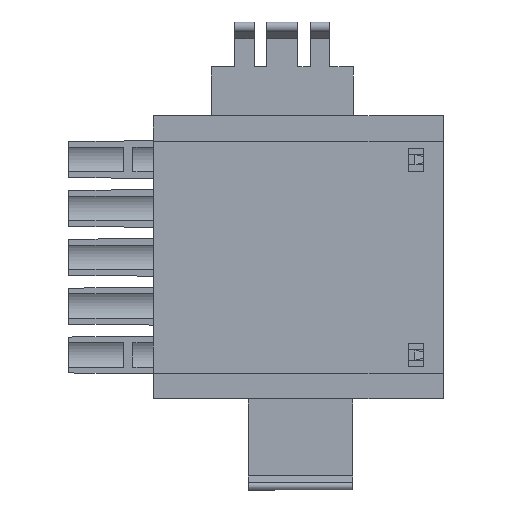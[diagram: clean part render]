
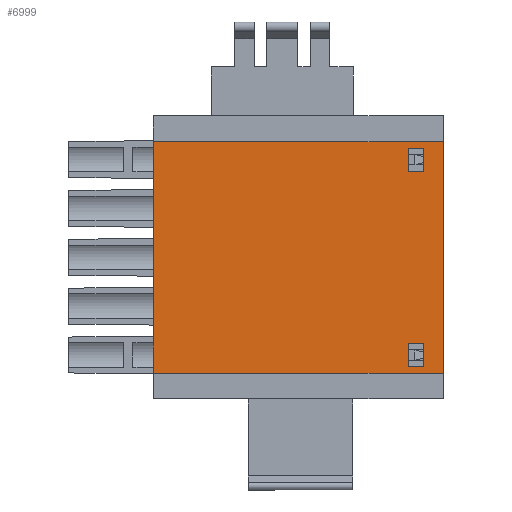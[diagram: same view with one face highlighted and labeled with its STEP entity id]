
A CAD part, front view. The second image highlights one B-rep face of the part: STEP entity #6999.
In plain terms, the highlighted planar face has unit normal (0, -1, 0).
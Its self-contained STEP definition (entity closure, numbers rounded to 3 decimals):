
#19 = LINE ( 'NONE', #8779, #9980 ) ;
#777 = VECTOR ( 'NONE', #16097, 1000. ) ;
#893 = VERTEX_POINT ( 'NONE', #12763 ) ;
#1051 = LINE ( 'NONE', #19194, #11022 ) ;
#1671 = ORIENTED_EDGE ( 'NONE', *, *, #15788, .T. ) ;
#1954 = EDGE_CURVE ( 'NONE', #24284, #13827, #1051, .T. ) ;
#2161 = CARTESIAN_POINT ( 'NONE',  ( -59.901, -2.817, 7.647 ) ) ;
#2788 = EDGE_CURVE ( 'NONE', #5568, #12451, #12479, .T. ) ;
#2958 = VERTEX_POINT ( 'NONE', #24056 ) ;
#3219 = ORIENTED_EDGE ( 'NONE', *, *, #4575, .T. ) ;
#3473 = DIRECTION ( 'NONE',  ( 1., 0., 0. ) ) ;
#3517 = EDGE_CURVE ( 'NONE', #7334, #16217, #18481, .T. ) ;
#3523 = CARTESIAN_POINT ( 'NONE',  ( -65.144, -2.817, -7.235 ) ) ;
#4152 = CARTESIAN_POINT ( 'NONE',  ( -58.701, -2.817, 7.647 ) ) ;
#4180 = EDGE_CURVE ( 'NONE', #12451, #7334, #20332, .T. ) ;
#4355 = CARTESIAN_POINT ( 'NONE',  ( -79.801, -2.817, -7.235 ) ) ;
#4575 = EDGE_CURVE ( 'NONE', #7068, #22375, #19, .T. ) ;
#4823 = VECTOR ( 'NONE', #10303, 1000. ) ;
#4834 = CARTESIAN_POINT ( 'NONE',  ( -79.801, -2.817, 7.647 ) ) ;
#4995 = VECTOR ( 'NONE', #16072, 1000. ) ;
#5034 = CARTESIAN_POINT ( 'NONE',  ( -65.144, -2.817, -6.734 ) ) ;
#5039 = DIRECTION ( 'NONE',  ( 0., -1., 0. ) ) ;
#5486 = LINE ( 'NONE', #2161, #777 ) ;
#5568 = VERTEX_POINT ( 'NONE', #6563 ) ;
#5683 = CARTESIAN_POINT ( 'NONE',  ( -59.901, -2.817, -4.934 ) ) ;
#6541 = VECTOR ( 'NONE', #20977, 1000. ) ;
#6563 = CARTESIAN_POINT ( 'NONE',  ( -79.801, -2.817, 10.825 ) ) ;
#6713 = EDGE_CURVE ( 'NONE', #2958, #893, #8480, .T. ) ;
#6992 = CARTESIAN_POINT ( 'NONE',  ( -65.144, -2.817, 10.825 ) ) ;
#6999 = ADVANCED_FACE ( 'NONE', ( #12778, #18133, #23428 ), #22860, .T. ) ;
#7068 = VERTEX_POINT ( 'NONE', #21070 ) ;
#7334 = VERTEX_POINT ( 'NONE', #12497 ) ;
#7548 = VECTOR ( 'NONE', #18975, 1000. ) ;
#7767 = CARTESIAN_POINT ( 'NONE',  ( -57.201, -2.817, 10.825 ) ) ;
#7882 = VECTOR ( 'NONE', #25432, 1000. ) ;
#7911 = EDGE_LOOP ( 'NONE', ( #13831, #18289, #3219, #22382 ) ) ;
#8010 = EDGE_CURVE ( 'NONE', #13827, #2958, #23326, .T. ) ;
#8378 = CARTESIAN_POINT ( 'NONE',  ( -65.144, -2.817, -4.934 ) ) ;
#8404 = AXIS2_PLACEMENT_3D ( 'NONE', #16925, #5039, #18980 ) ;
#8480 = LINE ( 'NONE', #23324, #13130 ) ;
#8779 = CARTESIAN_POINT ( 'NONE',  ( -58.701, -2.817, 7.647 ) ) ;
#8897 = DIRECTION ( 'NONE',  ( 0., 0., -1. ) ) ;
#9668 = ORIENTED_EDGE ( 'NONE', *, *, #8010, .T. ) ;
#9980 = VECTOR ( 'NONE', #14868, 1000. ) ;
#10303 = DIRECTION ( 'NONE',  ( 1., 0., 0. ) ) ;
#11022 = VECTOR ( 'NONE', #25195, 1000. ) ;
#11956 = LINE ( 'NONE', #8378, #4823 ) ;
#12451 = VERTEX_POINT ( 'NONE', #4355 ) ;
#12479 = LINE ( 'NONE', #4834, #22491 ) ;
#12497 = CARTESIAN_POINT ( 'NONE',  ( -57.201, -2.817, -7.235 ) ) ;
#12763 = CARTESIAN_POINT ( 'NONE',  ( -58.701, -2.817, 10.306 ) ) ;
#12778 = FACE_BOUND ( 'NONE', #15415, .T. ) ;
#13130 = VECTOR ( 'NONE', #3473, 1000. ) ;
#13705 = ORIENTED_EDGE ( 'NONE', *, *, #20260, .T. ) ;
#13827 = VERTEX_POINT ( 'NONE', #23060 ) ;
#13831 = ORIENTED_EDGE ( 'NONE', *, *, #17274, .T. ) ;
#14868 = DIRECTION ( 'NONE',  ( 0., 0., -1. ) ) ;
#15415 = EDGE_LOOP ( 'NONE', ( #20537, #1671, #24005, #9668 ) ) ;
#15788 = EDGE_CURVE ( 'NONE', #893, #24284, #20915, .T. ) ;
#16072 = DIRECTION ( 'NONE',  ( 0., 0., -1. ) ) ;
#16097 = DIRECTION ( 'NONE',  ( 0., 0., 1. ) ) ;
#16217 = VERTEX_POINT ( 'NONE', #7767 ) ;
#16914 = CARTESIAN_POINT ( 'NONE',  ( -58.701, -2.817, 8.506 ) ) ;
#16925 = CARTESIAN_POINT ( 'NONE',  ( -65.144, -2.817, 7.647 ) ) ;
#17035 = VERTEX_POINT ( 'NONE', #25175 ) ;
#17274 = EDGE_CURVE ( 'NONE', #17035, #25230, #5486, .T. ) ;
#17989 = EDGE_CURVE ( 'NONE', #25230, #7068, #11956, .T. ) ;
#18031 = VECTOR ( 'NONE', #18987, 1000. ) ;
#18133 = FACE_BOUND ( 'NONE', #7911, .T. ) ;
#18289 = ORIENTED_EDGE ( 'NONE', *, *, #17989, .T. ) ;
#18481 = LINE ( 'NONE', #23413, #7882 ) ;
#18609 = EDGE_CURVE ( 'NONE', #22375, #17035, #24113, .T. ) ;
#18899 = CARTESIAN_POINT ( 'NONE',  ( -59.901, -2.817, 7.647 ) ) ;
#18975 = DIRECTION ( 'NONE',  ( -1., 0., 0. ) ) ;
#18980 = DIRECTION ( 'NONE',  ( 0., 0., -1. ) ) ;
#18987 = DIRECTION ( 'NONE',  ( 0., 0., 1. ) ) ;
#19194 = CARTESIAN_POINT ( 'NONE',  ( -65.144, -2.817, 8.506 ) ) ;
#19498 = DIRECTION ( 'NONE',  ( 1., 0., 0. ) ) ;
#19901 = ORIENTED_EDGE ( 'NONE', *, *, #4180, .T. ) ;
#19974 = CARTESIAN_POINT ( 'NONE',  ( -58.701, -2.817, -6.734 ) ) ;
#20260 = EDGE_CURVE ( 'NONE', #16217, #5568, #21829, .T. ) ;
#20332 = LINE ( 'NONE', #3523, #24988 ) ;
#20537 = ORIENTED_EDGE ( 'NONE', *, *, #6713, .T. ) ;
#20709 = EDGE_LOOP ( 'NONE', ( #19901, #23875, #13705, #25610 ) ) ;
#20915 = LINE ( 'NONE', #4152, #4995 ) ;
#20977 = DIRECTION ( 'NONE',  ( -1., 0., 0. ) ) ;
#21070 = CARTESIAN_POINT ( 'NONE',  ( -58.701, -2.817, -4.934 ) ) ;
#21829 = LINE ( 'NONE', #6992, #6541 ) ;
#22375 = VERTEX_POINT ( 'NONE', #19974 ) ;
#22382 = ORIENTED_EDGE ( 'NONE', *, *, #18609, .T. ) ;
#22491 = VECTOR ( 'NONE', #8897, 1000. ) ;
#22860 = PLANE ( 'NONE',  #8404 ) ;
#23060 = CARTESIAN_POINT ( 'NONE',  ( -59.901, -2.817, 8.506 ) ) ;
#23324 = CARTESIAN_POINT ( 'NONE',  ( -65.144, -2.817, 10.306 ) ) ;
#23326 = LINE ( 'NONE', #18899, #18031 ) ;
#23413 = CARTESIAN_POINT ( 'NONE',  ( -57.201, -2.817, 7.647 ) ) ;
#23428 = FACE_OUTER_BOUND ( 'NONE', #20709, .T. ) ;
#23875 = ORIENTED_EDGE ( 'NONE', *, *, #3517, .T. ) ;
#24005 = ORIENTED_EDGE ( 'NONE', *, *, #1954, .T. ) ;
#24056 = CARTESIAN_POINT ( 'NONE',  ( -59.901, -2.817, 10.306 ) ) ;
#24113 = LINE ( 'NONE', #5034, #7548 ) ;
#24284 = VERTEX_POINT ( 'NONE', #16914 ) ;
#24988 = VECTOR ( 'NONE', #19498, 1000. ) ;
#25175 = CARTESIAN_POINT ( 'NONE',  ( -59.901, -2.817, -6.734 ) ) ;
#25195 = DIRECTION ( 'NONE',  ( -1., 0., 0. ) ) ;
#25230 = VERTEX_POINT ( 'NONE', #5683 ) ;
#25432 = DIRECTION ( 'NONE',  ( 0., 0., 1. ) ) ;
#25610 = ORIENTED_EDGE ( 'NONE', *, *, #2788, .T. ) ;
